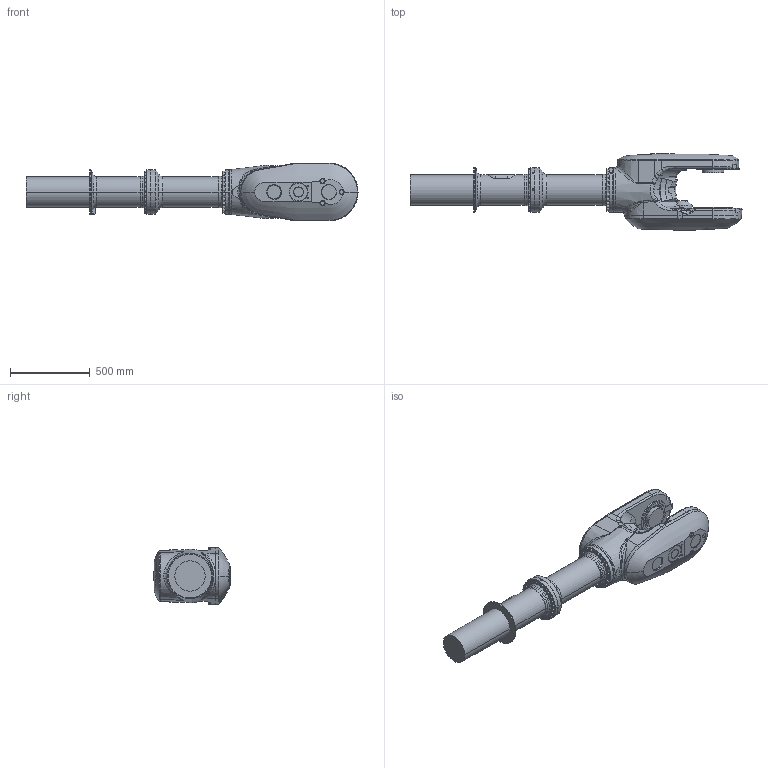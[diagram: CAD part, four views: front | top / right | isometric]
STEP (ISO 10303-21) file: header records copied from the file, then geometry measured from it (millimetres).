
FILE_DESCRIPTION (( 'STEP AP214' ), '1' );
FILE_NAME ('IRB77X0_All-330_OC_00_LINK04_CAD.STEP', '2023-11-14T08:45:27', ( '' ), ( '' ), 'SwSTEP 2.0', 'SolidWorks 2022', '' );
FILE_SCHEMA (( 'AUTOMOTIVE_DESIGN' ));
Length unit declared in the file: millimetre
Products named in the file (1): IRB77X0_All-330_OC_00_LINK04_CAD
Bounding box: 2076.38 x 475.5 x 362.31 mm (x, y, z)
Volume: 109689575 mm3; surface area: 2304946.9 mm2
Topology: 1 solids, 1 shells, 884 faces, 2143 edges, 1339 vertices
Faces by surface type: plane 291, cylinder 250, cone 183, bspline 148, torus 12
Entity records: 39237 total; most frequent: CARTESIAN_POINT 19235, ORIENTED_EDGE 4240, DIRECTION 3628, EDGE_CURVE 2120, AXIS2_PLACEMENT_3D 1392, VERTEX_POINT 1339, EDGE_LOOP 985, ADVANCED_FACE 884
